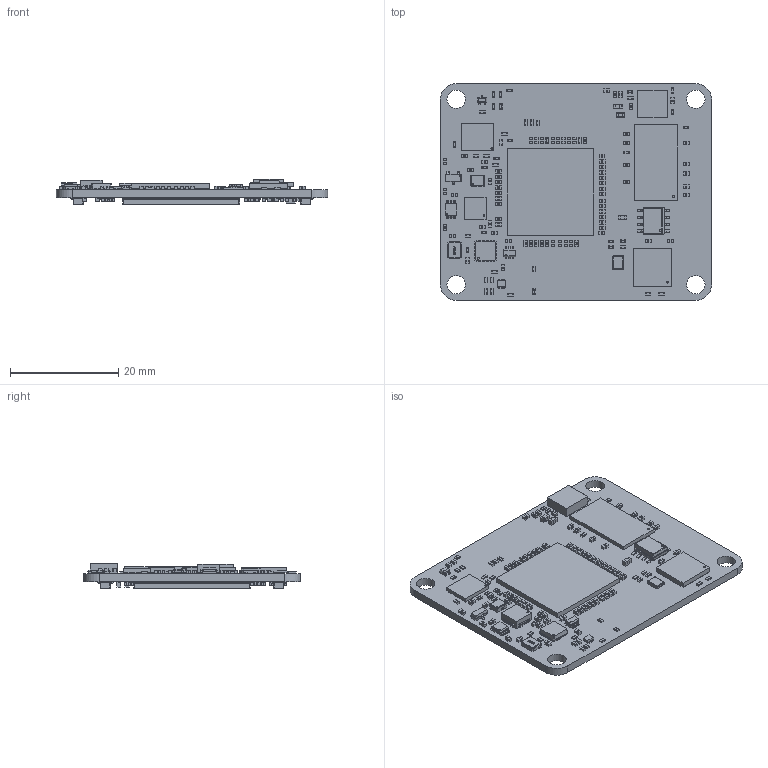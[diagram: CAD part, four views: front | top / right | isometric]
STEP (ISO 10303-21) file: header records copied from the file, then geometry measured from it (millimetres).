
FILE_DESCRIPTION(('KiCad electronic assembly'),'2;1');
FILE_NAME('xlm3201-400-01_module.step','2025-10-01T15:34:50',('Pcbnew'), ('Kicad'),'Open CASCADE STEP processor 7.6','KiCad to STEP converter', 'Unknown');
FILE_SCHEMA(('AUTOMOTIVE_DESIGN { 1 0 10303 214 1 1 1 1 }'));
Length unit declared in the file: millimetre
Products named in the file (1361): xlm3201-400-01_module 1; C_0402_1005Metric; MICROCHIP_KSZ8081RNA_QFN24_4X4MC_MCH; NTA7002NT1G_SOT-416_1P65X0P9; LED_XZxx68x-2; R_0402_1005Metric; Solid1; Solid2; Solid3; TOSHIBA_SSM6N35AFE_LF_ES6; Lead1; Lead6; Lead2; Lead3; Lead5; Lead4; Mold; NEXPERIA_SC-88-SOT363; SOT-23; MT41K256M16TW_107_P_FBGA96_8X14_MRN; C_0603_1608Metric; ECS-2033-500-BN; MICROCHIP_USB3343-CP-TR; EFINIX_FBGA_400; xlm3201-400-01_module 1.33.1; MPS_MPM54322; xlm3201-400-01_module 1.36.1; FB_0402_1005Metric; NEXPERIA_VSSOP8_SOT765-1; WINBOND_W25Q128JVPIQ; TI_LP2998MRX_NOPB; MICROCHIP_VQFN48_MAC_MCH; ABM8-26.000MHZ-D1G-T; ECS-250-18-36-AGM-TR; RNET_PAN_EXB-D10C470J; DF40C-100DP; DF40C-100DP-0.4V; xlm3201_3202_module_PCB
Assembly tree (1527 placements, depth 3):
  xlm3201-400-01_module 1
    C_0402_1005Metric  x104
    MICROCHIP_KSZ8081RNA_QFN24_4X4MC_MCH
    NTA7002NT1G_SOT-416_1P65X0P9
    LED_XZxx68x-2  x4
    R_0402_1005Metric  x47
      Solid1
      Solid2
      Solid2
      Solid3
    TOSHIBA_SSM6N35AFE_LF_ES6
      Lead1
      Lead6
      Lead2
      Lead3
      Lead5
      Lead4
      Mold
    NEXPERIA_SC-88-SOT363
    SOT-23
    MT41K256M16TW_107_P_FBGA96_8X14_MRN
    C_0603_1608Metric  x5
    ECS-2033-500-BN
    MICROCHIP_USB3343-CP-TR
    EFINIX_FBGA_400
      xlm3201-400-01_module 1.33.1
    MPS_MPM54322
      xlm3201-400-01_module 1.36.1
    FB_0402_1005Metric  x7
    NEXPERIA_VSSOP8_SOT765-1
    WINBOND_W25Q128JVPIQ
    TI_LP2998MRX_NOPB
    MICROCHIP_VQFN48_MAC_MCH
    ABM8-26.000MHZ-D1G-T
    ECS-250-18-36-AGM-TR
    RNET_PAN_EXB-D10C470J  x3
    DF40C-100DP  x4
      DF40C-100DP-0.4V
      DF40C-100DP-0.4V
      DF40C-100DP-0.4V
      DF40C-100DP-0.4V
      DF40C-100DP-0.4V
      DF40C-100DP-0.4V
      DF40C-100DP-0.4V
      DF40C-100DP-0.4V
      DF40C-100DP-0.4V
      DF40C-100DP-0.4V
      DF40C-100DP-0.4V
      DF40C-100DP-0.4V
      DF40C-100DP-0.4V
      DF40C-100DP-0.4V
      DF40C-100DP-0.4V
      DF40C-100DP-0.4V
      DF40C-100DP-0.4V
      DF40C-100DP-0.4V
      DF40C-100DP-0.4V
      DF40C-100DP-0.4V
      DF40C-100DP-0.4V
      DF40C-100DP-0.4V
      DF40C-100DP-0.4V
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Bounding box: 50 x 40 x 4.61 mm (x, y, z)
Volume: 3569.1 mm3; surface area: 7746.8 mm2
Topology: 975 solids, 6267 shells, 13883 faces, 51335 edges, 44325 vertices
Faces by surface type: bspline 7242, plane 5984, cylinder 521, sphere 136
Full cylindrical faces by diameter (mm): 0.067 x1, 0.083 x1, 0.119 x1, 0.198 x1, 0.351 x1, 0.4 x1, 3.4 x4
Entity records: 180129 total; most frequent: CARTESIAN_POINT 59283, ORIENTED_EDGE 20182, DIRECTION 14142, EDGE_CURVE 14037, VERTEX_POINT 12013, B_SPLINE_CURVE_WITH_KNOTS 6676, LINE 4902, VECTOR 4902
